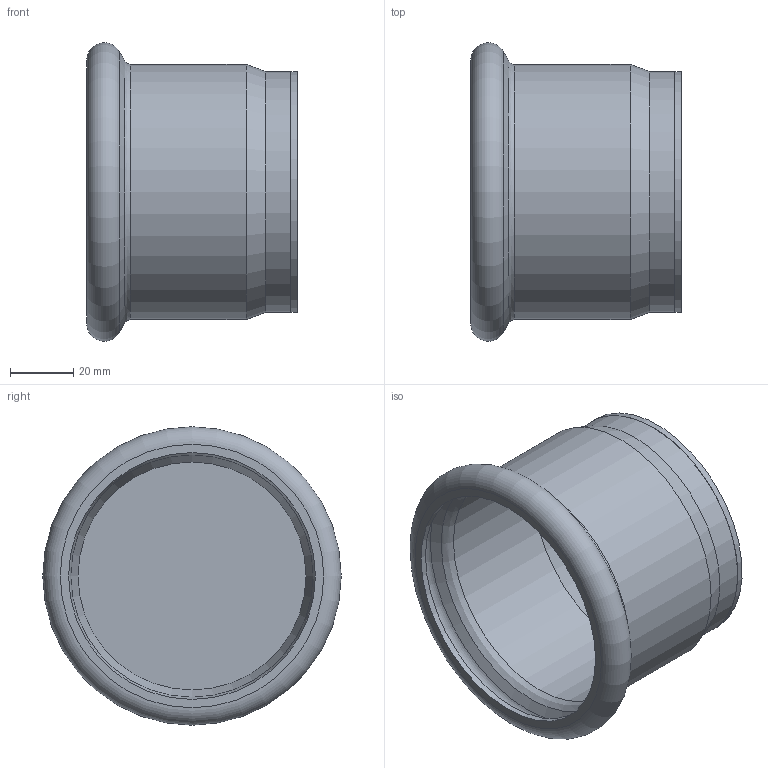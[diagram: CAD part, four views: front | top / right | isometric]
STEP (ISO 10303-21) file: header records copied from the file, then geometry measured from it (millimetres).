
FILE_DESCRIPTION((''),'2;1');
FILE_NAME('G:\Nirosan-Schmiedefeld\Technics\CAD\001 Serie 9.000\076\6930176(0).stp','2018-09-11T15:36:58',('herberg'),(''),'Autodesk Inventor 2009','Autodesk Inventor 2009','');
FILE_SCHEMA(('AUTOMOTIVE_DESIGN { 1 0 10303 214 1 1 1 1 }'));
Length unit declared in the file: millimetre
Products named in the file (3): 6930176(0); 69HM76P(0); D_6930176(0)
Assembly tree (2 placements, depth 2):
  6930176(0)
    69HM76P(0)
    D_6930176(0)
Bounding box: 66.5 x 94.29 x 94.29 mm (x, y, z)
Volume: 45482.5 mm3; surface area: 46922.3 mm2
Topology: 2 solids, 2 shells, 19 faces, 33 edges, 19 vertices
Faces by surface type: cylinder 6, plane 5, cone 4, torus 2, bspline 2
Full cylindrical faces by diameter (mm): 72.1 x1, 76.1 x2, 76.6 x1, 78 x1, 80.6 x1
Entity records: 547 total; most frequent: CARTESIAN_POINT 148, DIRECTION 80, AXIS2_PLACEMENT_3D 40, ORIENTED_EDGE 36, EDGE_LOOP 36, FACE_OUTER_BOUND 19, ADVANCED_FACE 19, VERTEX_POINT 18
